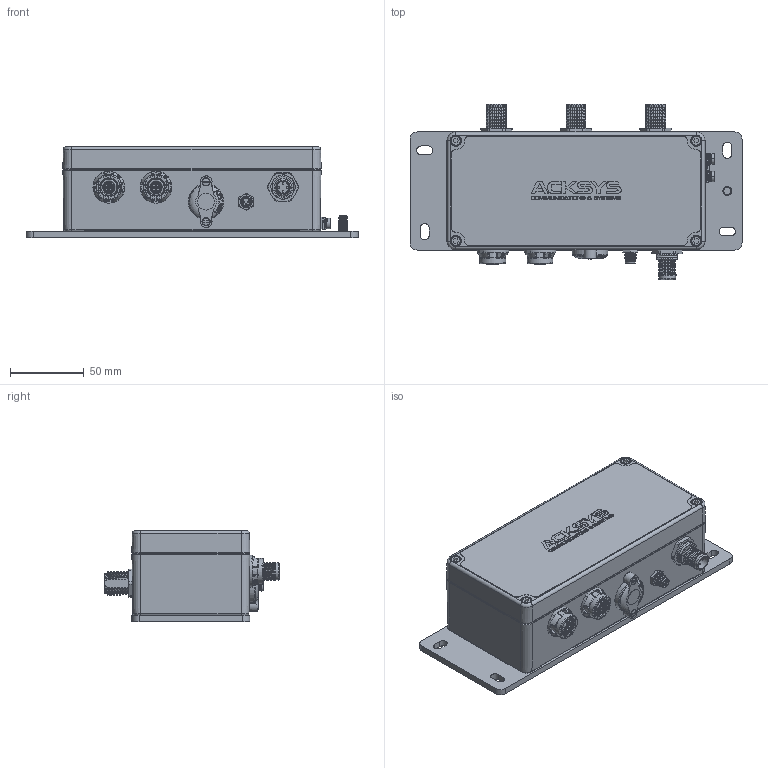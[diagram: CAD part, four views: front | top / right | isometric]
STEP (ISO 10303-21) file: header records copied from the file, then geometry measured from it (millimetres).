
FILE_DESCRIPTION(/* description */ (''),/* implementation_level */ '2;1');
FILE_NAME(/* name */ 'C:\Users\Jonathan\Documents\RuggedAir\Méca\RuggedAir_2B.3D(step_ap214).A1x.stp',/* time_stamp */ '2020-04-28T18:15:37+02:00',/* author */ ('Jonathan'),/* organization */ (''),/* preprocessor_version */ 'ST-DEVELOPER v18',/* originating_system */ 'AutoCAD Mechanical',/* authorisation */ '');
FILE_SCHEMA (('AUTOMOTIVE_DESIGN { 1 0 10303 214 3 1 1 }'));
Products named in the file (2): Product1; Product
Assembly tree (1 placements, depth 2):
  Product1
    Product
Bounding box: 225 x 118.7 x 62 mm (x, y, z)
Volume: 284033.4 mm3; surface area: 163660.7 mm2
Topology: 2 solids, 22 shells, 3863 faces, 10444 edges, 6716 vertices
Faces by surface type: plane 1855, cylinder 672, cone 542, bspline 446, torus 301, sphere 47
Full cylindrical faces by diameter (mm): 0.7 x16, 1 x3, 1.2 x8, 1.24 x16, 2.6 x3, 3 x2, 3.141 x6, 3.2 x2, 3.3 x5, 4 x8, 4.5 x8, 5.8 x1, 6 x13, 6.159 x1, 6.5 x3, 6.9 x1, 7 x6, 7.065 x6, 8 x1, 8.25 x2, 8.4 x2, 8.9 x2, 9 x6, 9.574 x1, 10.996 x3, 11.2 x1, 11.574 x2, 12.138 x1, 14 x1, 14.6 x1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
Entity records: 138552 total; most frequent: CARTESIAN_POINT 44491, ORIENTED_EDGE 20846, DIRECTION 18145, EDGE_CURVE 10423, VERTEX_POINT 6715, LINE 6051, VECTOR 6051, AXIS2_PLACEMENT_3D 6047
